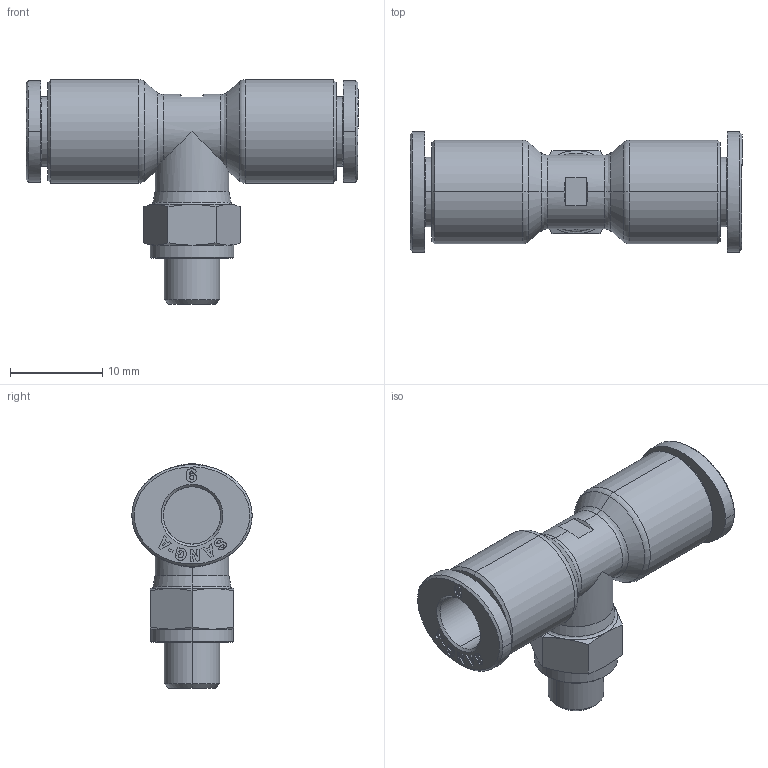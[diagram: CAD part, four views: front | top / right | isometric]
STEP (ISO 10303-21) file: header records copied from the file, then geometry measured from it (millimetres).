
FILE_DESCRIPTION((''),'2;1');
FILE_NAME('GPT 06M6(3D).stp','2012-12-26T18:52:10',(''),(''),'Mechanical Desktop.R8.0.24.0','Mechanical Desktop.R8.0.24.0',', , ');
FILE_SCHEMA(('CONFIG_CONTROL_DESIGN'));
Length unit declared in the file: millimetre
Products named in the file (2): GPT 06M6(3D); 睡ヶ1
Assembly tree (1 placements, depth 2):
  GPT 06M6(3D)
    睡ヶ1
Bounding box: 35.9 x 13 x 24.3 mm (x, y, z)
Volume: 2842.1 mm3; surface area: 2721.3 mm2
Topology: 1 solids, 1 shells, 509 faces, 1376 edges, 895 vertices
Faces by surface type: plane 359, bspline 66, cylinder 44, cone 36, torus 4
Entity records: 17879 total; most frequent: CARTESIAN_POINT 5148, ORIENTED_EDGE 2748, DIRECTION 2460, EDGE_CURVE 1374, VECTOR 1070, LINE 1070, VERTEX_POINT 895, AXIS2_PLACEMENT_3D 695
